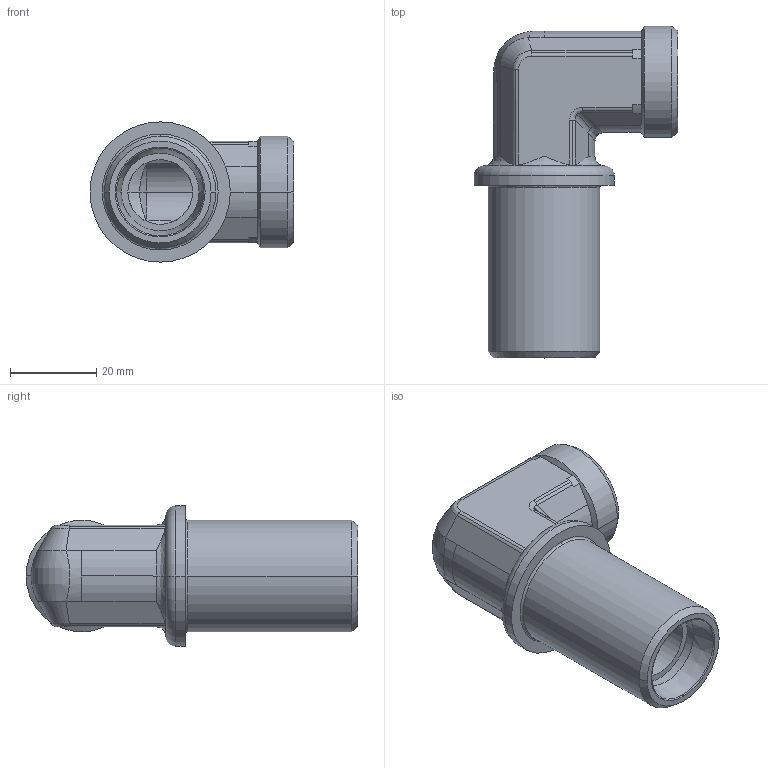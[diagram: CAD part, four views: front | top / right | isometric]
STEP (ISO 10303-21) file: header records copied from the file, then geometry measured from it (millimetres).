
FILE_DESCRIPTION((''),'2;1');
FILE_NAME('103709.stp','2007-10-31T11:47:39',(''),(''),'AutoCAD STEP 2000i','AutoCAD 2000i',', , ');
FILE_SCHEMA(('CONFIG_CONTROL_DESIGN'));
Length unit declared in the file: millimetre
Products named in the file (2): 103709.0; 3092#0
Assembly tree (1 placements, depth 2):
  103709.0
    3092#0
Bounding box: 47.25 x 76.92 x 32.5 mm (x, y, z)
Volume: 29911.3 mm3; surface area: 13238.9 mm2
Topology: 1 solids, 1 shells, 115 faces, 271 edges, 161 vertices
Faces by surface type: cylinder 50, plane 27, cone 18, bspline 16, torus 4
Entity records: 4379 total; most frequent: CARTESIAN_POINT 1645, DIRECTION 578, ORIENTED_EDGE 542, EDGE_CURVE 271, AXIS2_PLACEMENT_3D 240, VERTEX_POINT 161, CIRCLE 121, EDGE_LOOP 120
